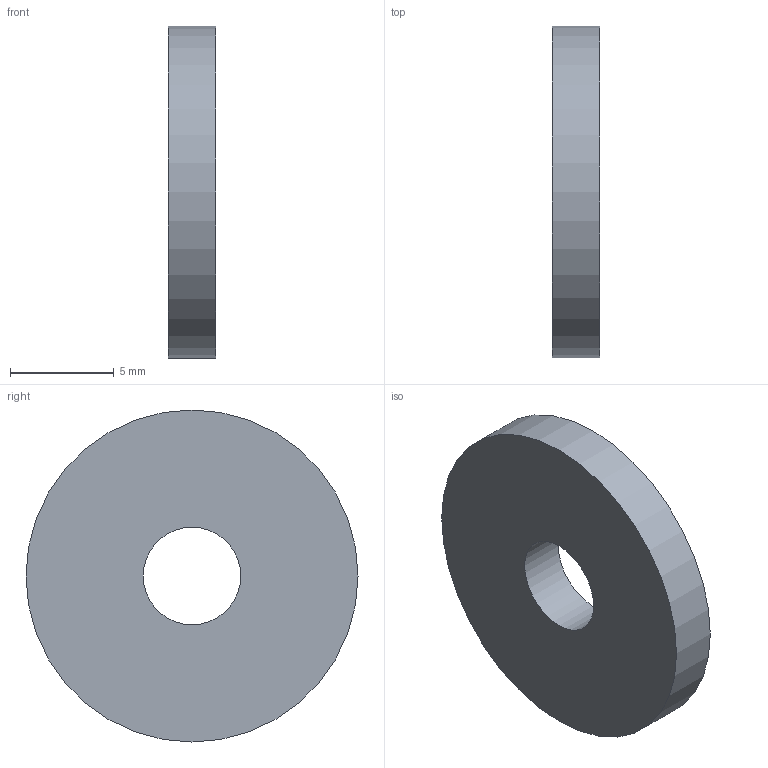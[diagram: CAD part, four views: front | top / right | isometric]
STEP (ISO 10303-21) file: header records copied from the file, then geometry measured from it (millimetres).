
FILE_DESCRIPTION(/* description */ ('미터법 평면 와셔'),/* implementation_level */ '2;1');
FILE_NAME(/* name */ '',/* time_stamp */ '2024-07-17T10:50:19+09:00',/* author */ ('jhkim'),/* organization */ (''),/* preprocessor_version */ 'ST-DEVELOPER v20',/* originating_system */ 'Autodesk Inventor 2025',/* authorisation */ '');
FILE_SCHEMA (('AUTOMOTIVE_DESIGN { 1 0 10303 214 3 1 1 }'));
Length unit declared in the file: millimetre
Products named in the file (1): 와셔 4 x 16
Bounding box: 2.3 x 16 x 16 mm (x, y, z)
Volume: 422.5 mm3; surface area: 517 mm2
Topology: 1 solids, 1 shells, 4 faces, 6 edges, 4 vertices
Faces by surface type: cylinder 2, plane 2
Full cylindrical faces by diameter (mm): 4.7 x1, 16 x1
Entity records: 141 total; most frequent: DIRECTION 20, CARTESIAN_POINT 15, ORIENTED_EDGE 12, AXIS2_PLACEMENT_3D 9, EDGE_LOOP 6, EDGE_CURVE 6, FACE_OUTER_BOUND 4, CIRCLE 4
